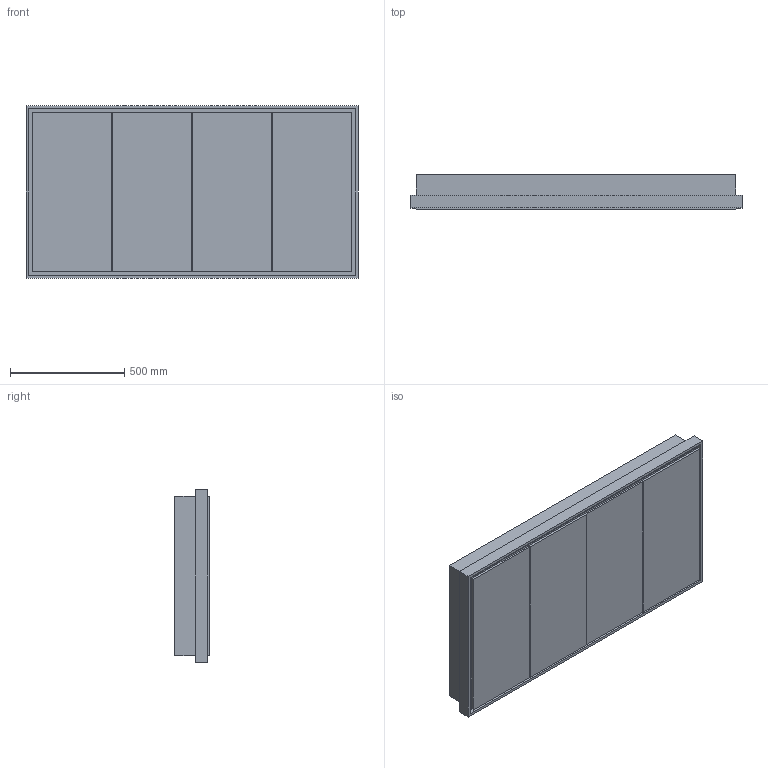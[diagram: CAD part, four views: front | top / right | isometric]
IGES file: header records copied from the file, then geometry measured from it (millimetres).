
Global section: file name: \\Archi-NAS\Comune\X GIOVANNI\SCHEDE PRODOTTO\SPECCHI\MIRR REVERSE LED\MOMA DESIGN_SPECCHI_MIRR REVERSE LED WALL HORIZONTAL.igs; native system: Rhinoceros ( Jan 17 2018 ); preprocessor: Trout Lake IGES 012 Jan 17 2018; date: 230621.095712; units: millimetre
Bounding box: 1454 x 151.03 x 754 mm (x, y, z)
Surface area: 6716800 mm2 (no closed solid volume)
Topology: 0 solids, 0 shells, 81 faces, 367 edges, 368 vertices
Faces by surface type: bspline 81
